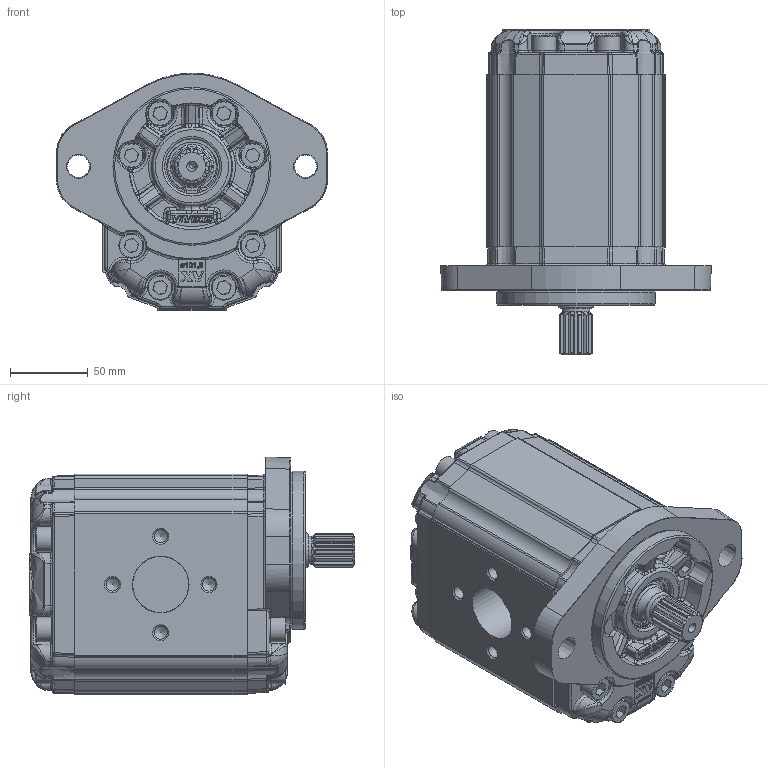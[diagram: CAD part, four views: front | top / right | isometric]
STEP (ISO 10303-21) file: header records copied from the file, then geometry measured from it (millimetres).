
FILE_DESCRIPTION(/* description */ ('Unknown'),/* implementation_level */ '2;1');
FILE_NAME(/* name */ 'X3R8631ICCE',/* time_stamp */ '2021-04-26T12:56:50+02:00',/* author */ ('Unknown'),/* organization */ ('Unknown'),/* preprocessor_version */ 'ST-DEVELOPER v16.7',/* originating_system */ 'Solid Edge',/* authorisation */ 'Unknown');
FILE_SCHEMA (('AUTOMOTIVE_DESIGN {1 0 10303 214 3 1 1}'));
Products named in the file (5): X3R8631ICCE; X3R31; 3I; X3CCH111; XR331-E
Assembly tree (4 placements, depth 2):
  X3R8631ICCE
    X3R31
    3I
    X3CCH111
    XR331-E
Bounding box: 174 x 209.2 x 153 mm (x, y, z)
Volume: 2407773 mm3; surface area: 220867.6 mm2
Topology: 4 solids, 21 shells, 2461 faces, 6311 edges, 3980 vertices
Faces by surface type: bspline 1018, plane 718, cylinder 509, cone 106, torus 94, sphere 16
Full cylindrical faces by diameter (mm): 2 x2, 8.376 x8, 10 x16, 15.25 x1, 15.8 x16, 16 x16, 18 x2, 24.98 x1, 25 x2, 25.968 x1, 28.16 x1, 31.293 x1, 32.742 x1, 34.956 x1, 35 x1, 35.2 x1, 36 x2, 37 x1, 101.6 x1
Entity records: 136317 total; most frequent: CARTESIAN_POINT 71478, ORIENTED_EDGE 12166, EDGE_CURVE 6083, DIRECTION 5756, VERTEX_POINT 3918, B_SPLINE_CURVE_WITH_KNOTS 3782, FACE_BOUND 2729, EDGE_LOOP 2718
